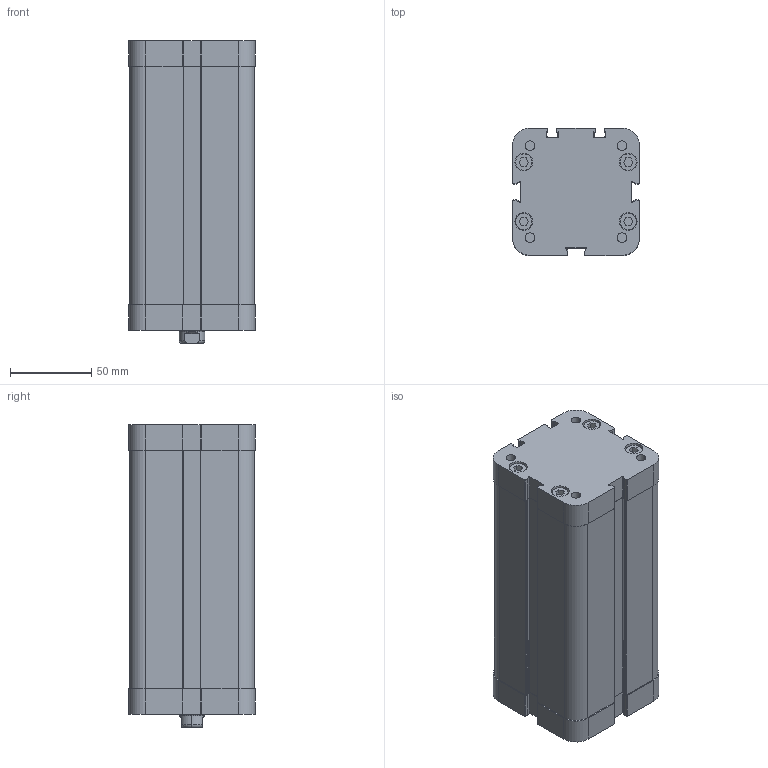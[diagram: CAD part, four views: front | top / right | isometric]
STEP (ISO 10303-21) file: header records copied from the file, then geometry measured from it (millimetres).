
FILE_DESCRIPTION((''),'2;1');
FILE_NAME('P11M20630125.stp','2010-02-25T19:11:53',('B. Petkovic 2010'),('AZ PNEUMATICA S.r.l.'),'Mechanical Desktop 2006','Mechanical Desktop 2006','Via Marco Biagi 6, I-20020 Misinto(MI) Italy, azpneu@tin.it');
FILE_SCHEMA(('CONFIG_CONTROL_DESIGN'));
Length unit declared in the file: millimetre
Products named in the file (2): P11M20630125; COMPACT CILINDRI
Assembly tree (1 placements, depth 2):
  P11M20630125
    COMPACT CILINDRI
Bounding box: 78 x 78 x 186 mm (x, y, z)
Volume: 997789.7 mm3; surface area: 81136.1 mm2
Topology: 1 solids, 1 shells, 398 faces, 1028 edges, 669 vertices
Faces by surface type: plane 242, cylinder 148, cone 6, torus 2
Entity records: 12314 total; most frequent: CARTESIAN_POINT 2179, DIRECTION 2159, ORIENTED_EDGE 2052, EDGE_CURVE 1026, AXIS2_PLACEMENT_3D 735, VECTOR 689, LINE 689, VERTEX_POINT 669
